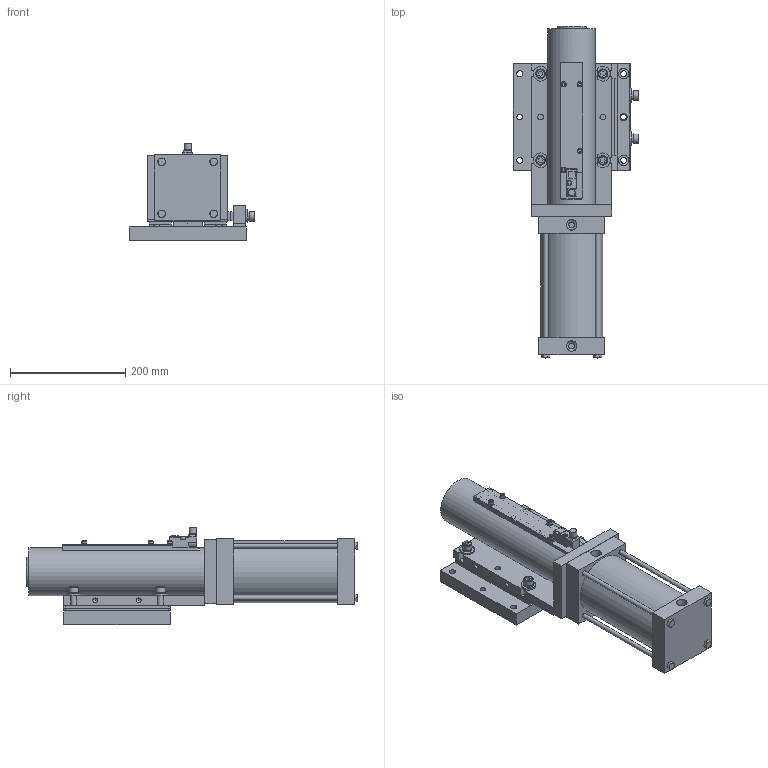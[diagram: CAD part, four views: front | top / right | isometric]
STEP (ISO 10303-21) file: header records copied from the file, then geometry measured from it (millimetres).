
FILE_DESCRIPTION(/* description */ (''),/* implementation_level */ '2;1');
FILE_NAME(/* name */ 'C:\TEMP\HP5 Bull Pins\HP5-P1M4VE000.stp',/* time_stamp */ '2016-01-20T07:22:21-05:00',/* author */ ('klabrecque'),/* organization */ (''),/* preprocessor_version */ 'ST-DEVELOPER v15.2',/* originating_system */ 'Autodesk Inventor 2014',/* authorisation */ '');
FILE_SCHEMA (('AUTOMOTIVE_DESIGN { 1 0 10303 214 3 1 1 }'));
Length unit declared in the file: millimetre
Products named in the file (33): HP5E01; HP5E04; HP5E05; M10X1.5-50 SHCS; S01674E03; S01674E04; S01674E02; 0.313-24X10.000 HEX; HP5E03; M4X0.7-10 SHCS; NL10; DSC-D-M10; M6X1-20 SHCS; NL6; HP5E13; HP5E14; HP5E10; HP5E15; HP5E08; HP5E09; HP5E11; M10X1.5-45 SHCS; 12mmX40 DOWEL; Side Weld; Side Weld mid; Side Weld2; End Weld; M5X0.8-10 SHCS; M5X0.8-25 SHCS; NL5; WORLD-SWITCH-BODY_PF; 6950160; HP5-P1M4VE000
Bounding box: 218.1 x 575.18 x 169.27 mm (x, y, z)
Volume: 4791247.2 mm3; surface area: 979504.3 mm2
Topology: 77 solids, 77 shells, 1031 faces, 2288 edges, 1496 vertices
Faces by surface type: plane 603, cylinder 292, cone 120, torus 6, sphere 6, bspline 4
Full cylindrical faces by diameter (mm): 2 x2, 3.242 x8, 4 x13, 4.134 x14, 4.5 x6, 4.917 x4, 5 x5, 5.3 x1, 5.4 x4, 5.5 x4, 6 x2, 6.35 x2, 6.5 x2, 6.647 x1, 6.782 x4, 7 x12, 7.938 x4, 8 x6, 8.376 x8, 8.5 x13, 9 x4, 10 x15, 10.1 x6, 10.5 x8, 10.7 x6, 10.8 x1, 11 x7, 11.43 x4, 11.5 x1, 12 x8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
Entity records: 18059 total; most frequent: CARTESIAN_POINT 3552, DIRECTION 3012, ORIENTED_EDGE 2330, AXIS2_PLACEMENT_3D 1176, EDGE_CURVE 1165, EDGE_LOOP 1032, VERTEX_POINT 877, LINE 660
